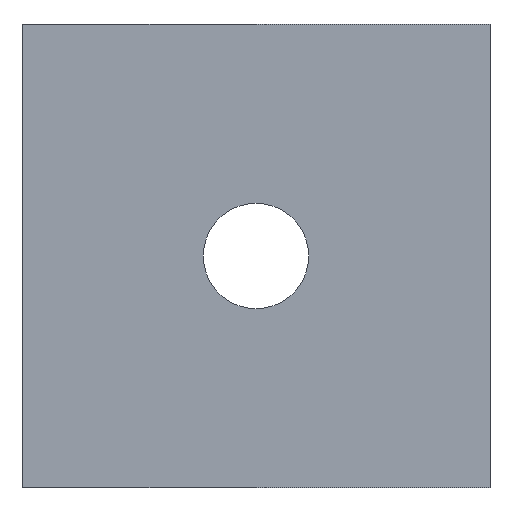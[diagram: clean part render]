
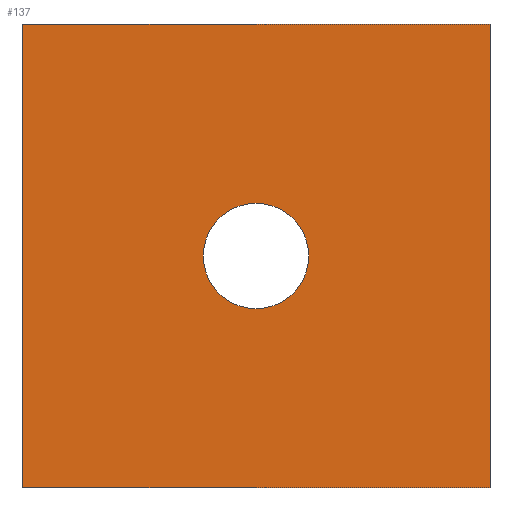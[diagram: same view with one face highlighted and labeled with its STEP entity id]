
A CAD part, front view. The second image highlights one B-rep face of the part: STEP entity #137.
In plain terms, the highlighted planar face has unit normal (0, -1, 0).
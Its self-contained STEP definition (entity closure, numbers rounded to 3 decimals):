
#21 = EDGE_CURVE('',#22,#24,#26,.T.);
#22 = VERTEX_POINT('',#23);
#23 = CARTESIAN_POINT('',(65.,-48.,52.1));
#24 = VERTEX_POINT('',#25);
#25 = CARTESIAN_POINT('',(65.,-48.,71.9));
#26 = SURFACE_CURVE('',#27,(#31,#43),.PCURVE_S1.);
#27 = LINE('',#28,#29);
#28 = CARTESIAN_POINT('',(65.,-48.,52.1));
#29 = VECTOR('',#30,1.);
#30 = DIRECTION('',(0.,0.,1.));
#31 = PCURVE('',#32,#37);
#32 = PLANE('',#33);
#33 = AXIS2_PLACEMENT_3D('',#34,#35,#36);
#34 = CARTESIAN_POINT('',(65.,-48.,52.1));
#35 = DIRECTION('',(1.,0.,0.));
#36 = DIRECTION('',(0.,0.,1.));
#37 = DEFINITIONAL_REPRESENTATION('',(#38),#42);
#38 = LINE('',#39,#40);
#39 = CARTESIAN_POINT('',(0.,0.));
#40 = VECTOR('',#41,1.);
#41 = DIRECTION('',(1.,0.));
#42 = ( GEOMETRIC_REPRESENTATION_CONTEXT(2) 
PARAMETRIC_REPRESENTATION_CONTEXT() REPRESENTATION_CONTEXT('2D SPACE',''
  ) );
#43 = PCURVE('',#44,#49);
#44 = PLANE('',#45);
#45 = AXIS2_PLACEMENT_3D('',#46,#47,#48);
#46 = CARTESIAN_POINT('',(65.,-48.,52.1));
#47 = DIRECTION('',(0.,1.,0.));
#48 = DIRECTION('',(0.,0.,1.));
#49 = DEFINITIONAL_REPRESENTATION('',(#50),#54);
#50 = LINE('',#51,#52);
#51 = CARTESIAN_POINT('',(0.,0.));
#52 = VECTOR('',#53,1.);
#53 = DIRECTION('',(1.,0.));
#54 = ( GEOMETRIC_REPRESENTATION_CONTEXT(2) 
PARAMETRIC_REPRESENTATION_CONTEXT() REPRESENTATION_CONTEXT('2D SPACE',''
  ) );
#72 = PLANE('',#73);
#73 = AXIS2_PLACEMENT_3D('',#74,#75,#76);
#74 = CARTESIAN_POINT('',(65.,-48.,52.1));
#75 = DIRECTION('',(0.,0.,1.));
#76 = DIRECTION('',(1.,0.,0.));
#126 = PLANE('',#127);
#127 = AXIS2_PLACEMENT_3D('',#128,#129,#130);
#128 = CARTESIAN_POINT('',(65.,-48.,71.9));
#129 = DIRECTION('',(0.,0.,1.));
#130 = DIRECTION('',(1.,0.,0.));
#137 = ADVANCED_FACE('',(#138,#213),#44,.F.);
#138 = FACE_BOUND('',#139,.F.);
#139 = EDGE_LOOP('',(#140,#163,#164,#187));
#140 = ORIENTED_EDGE('',*,*,#141,.F.);
#141 = EDGE_CURVE('',#22,#142,#144,.T.);
#142 = VERTEX_POINT('',#143);
#143 = CARTESIAN_POINT('',(85.,-48.,52.1));
#144 = SURFACE_CURVE('',#145,(#149,#156),.PCURVE_S1.);
#145 = LINE('',#146,#147);
#146 = CARTESIAN_POINT('',(65.,-48.,52.1));
#147 = VECTOR('',#148,1.);
#148 = DIRECTION('',(1.,0.,0.));
#149 = PCURVE('',#44,#150);
#150 = DEFINITIONAL_REPRESENTATION('',(#151),#155);
#151 = LINE('',#152,#153);
#152 = CARTESIAN_POINT('',(0.,0.));
#153 = VECTOR('',#154,1.);
#154 = DIRECTION('',(0.,1.));
#155 = ( GEOMETRIC_REPRESENTATION_CONTEXT(2) 
PARAMETRIC_REPRESENTATION_CONTEXT() REPRESENTATION_CONTEXT('2D SPACE',''
  ) );
#156 = PCURVE('',#72,#157);
#157 = DEFINITIONAL_REPRESENTATION('',(#158),#162);
#158 = LINE('',#159,#160);
#159 = CARTESIAN_POINT('',(0.,0.));
#160 = VECTOR('',#161,1.);
#161 = DIRECTION('',(1.,0.));
#162 = ( GEOMETRIC_REPRESENTATION_CONTEXT(2) 
PARAMETRIC_REPRESENTATION_CONTEXT() REPRESENTATION_CONTEXT('2D SPACE',''
  ) );
#163 = ORIENTED_EDGE('',*,*,#21,.T.);
#164 = ORIENTED_EDGE('',*,*,#165,.T.);
#165 = EDGE_CURVE('',#24,#166,#168,.T.);
#166 = VERTEX_POINT('',#167);
#167 = CARTESIAN_POINT('',(85.,-48.,71.9));
#168 = SURFACE_CURVE('',#169,(#173,#180),.PCURVE_S1.);
#169 = LINE('',#170,#171);
#170 = CARTESIAN_POINT('',(65.,-48.,71.9));
#171 = VECTOR('',#172,1.);
#172 = DIRECTION('',(1.,0.,0.));
#173 = PCURVE('',#44,#174);
#174 = DEFINITIONAL_REPRESENTATION('',(#175),#179);
#175 = LINE('',#176,#177);
#176 = CARTESIAN_POINT('',(19.8,0.));
#177 = VECTOR('',#178,1.);
#178 = DIRECTION('',(0.,1.));
#179 = ( GEOMETRIC_REPRESENTATION_CONTEXT(2) 
PARAMETRIC_REPRESENTATION_CONTEXT() REPRESENTATION_CONTEXT('2D SPACE',''
  ) );
#180 = PCURVE('',#126,#181);
#181 = DEFINITIONAL_REPRESENTATION('',(#182),#186);
#182 = LINE('',#183,#184);
#183 = CARTESIAN_POINT('',(0.,0.));
#184 = VECTOR('',#185,1.);
#185 = DIRECTION('',(1.,0.));
#186 = ( GEOMETRIC_REPRESENTATION_CONTEXT(2) 
PARAMETRIC_REPRESENTATION_CONTEXT() REPRESENTATION_CONTEXT('2D SPACE',''
  ) );
#187 = ORIENTED_EDGE('',*,*,#188,.F.);
#188 = EDGE_CURVE('',#142,#166,#189,.T.);
#189 = SURFACE_CURVE('',#190,(#194,#201),.PCURVE_S1.);
#190 = LINE('',#191,#192);
#191 = CARTESIAN_POINT('',(85.,-48.,52.1));
#192 = VECTOR('',#193,1.);
#193 = DIRECTION('',(0.,0.,1.));
#194 = PCURVE('',#44,#195);
#195 = DEFINITIONAL_REPRESENTATION('',(#196),#200);
#196 = LINE('',#197,#198);
#197 = CARTESIAN_POINT('',(0.,20.));
#198 = VECTOR('',#199,1.);
#199 = DIRECTION('',(1.,0.));
#200 = ( GEOMETRIC_REPRESENTATION_CONTEXT(2) 
PARAMETRIC_REPRESENTATION_CONTEXT() REPRESENTATION_CONTEXT('2D SPACE',''
  ) );
#201 = PCURVE('',#202,#207);
#202 = PLANE('',#203);
#203 = AXIS2_PLACEMENT_3D('',#204,#205,#206);
#204 = CARTESIAN_POINT('',(85.,-48.,52.1));
#205 = DIRECTION('',(1.,0.,0.));
#206 = DIRECTION('',(0.,0.,1.));
#207 = DEFINITIONAL_REPRESENTATION('',(#208),#212);
#208 = LINE('',#209,#210);
#209 = CARTESIAN_POINT('',(0.,0.));
#210 = VECTOR('',#211,1.);
#211 = DIRECTION('',(1.,0.));
#212 = ( GEOMETRIC_REPRESENTATION_CONTEXT(2) 
PARAMETRIC_REPRESENTATION_CONTEXT() REPRESENTATION_CONTEXT('2D SPACE',''
  ) );
#213 = FACE_BOUND('',#214,.F.);
#214 = EDGE_LOOP('',(#215));
#215 = ORIENTED_EDGE('',*,*,#216,.F.);
#216 = EDGE_CURVE('',#217,#217,#219,.T.);
#217 = VERTEX_POINT('',#218);
#218 = CARTESIAN_POINT('',(75.,-48.,64.25));
#219 = SURFACE_CURVE('',#220,(#225,#232),.PCURVE_S1.);
#220 = CIRCLE('',#221,2.25);
#221 = AXIS2_PLACEMENT_3D('',#222,#223,#224);
#222 = CARTESIAN_POINT('',(75.,-48.,62.));
#223 = DIRECTION('',(0.,1.,0.));
#224 = DIRECTION('',(0.,-0.,1.));
#225 = PCURVE('',#44,#226);
#226 = DEFINITIONAL_REPRESENTATION('',(#227),#231);
#227 = CIRCLE('',#228,2.25);
#228 = AXIS2_PLACEMENT_2D('',#229,#230);
#229 = CARTESIAN_POINT('',(9.9,10.));
#230 = DIRECTION('',(1.,0.));
#231 = ( GEOMETRIC_REPRESENTATION_CONTEXT(2) 
PARAMETRIC_REPRESENTATION_CONTEXT() REPRESENTATION_CONTEXT('2D SPACE',''
  ) );
#232 = PCURVE('',#233,#238);
#233 = CYLINDRICAL_SURFACE('',#234,2.25);
#234 = AXIS2_PLACEMENT_3D('',#235,#236,#237);
#235 = CARTESIAN_POINT('',(75.,-48.,62.));
#236 = DIRECTION('',(0.,1.,0.));
#237 = DIRECTION('',(0.,-0.,1.));
#238 = DEFINITIONAL_REPRESENTATION('',(#239),#243);
#239 = LINE('',#240,#241);
#240 = CARTESIAN_POINT('',(0.,0.));
#241 = VECTOR('',#242,1.);
#242 = DIRECTION('',(1.,0.));
#243 = ( GEOMETRIC_REPRESENTATION_CONTEXT(2) 
PARAMETRIC_REPRESENTATION_CONTEXT() REPRESENTATION_CONTEXT('2D SPACE',''
  ) );
